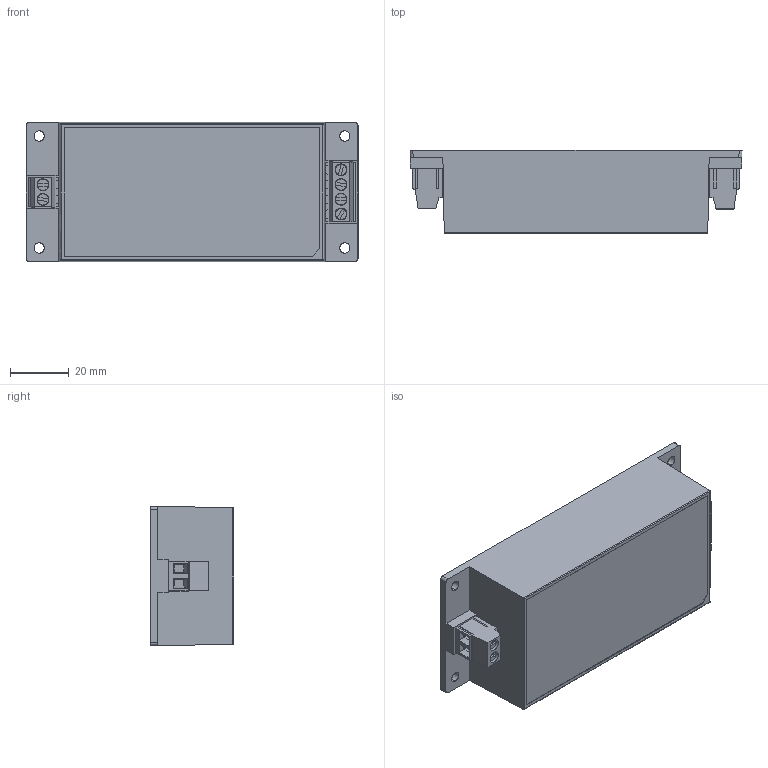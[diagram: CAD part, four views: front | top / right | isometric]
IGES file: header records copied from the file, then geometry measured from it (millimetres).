
Start section: SolidWorks IGES file using analytic representation for surfaces
Global section: file name: C:\Users\ksmith.XPNA\Desktop\ECE80\ECE80-S.IGS; native system: SolidWorks 2016; preprocessor: SolidWorks 2016; author: ksmith; date: 170223.084026; units: inch
Bounding box: 113 x 28.45 x 47.5 mm (x, y, z)
Surface area: 46817.5 mm2 (no closed solid volume)
Topology: 0 solids, 0 shells, 560 faces, 4278 edges, 4278 vertices
Faces by surface type: bspline 510, revolution 50
